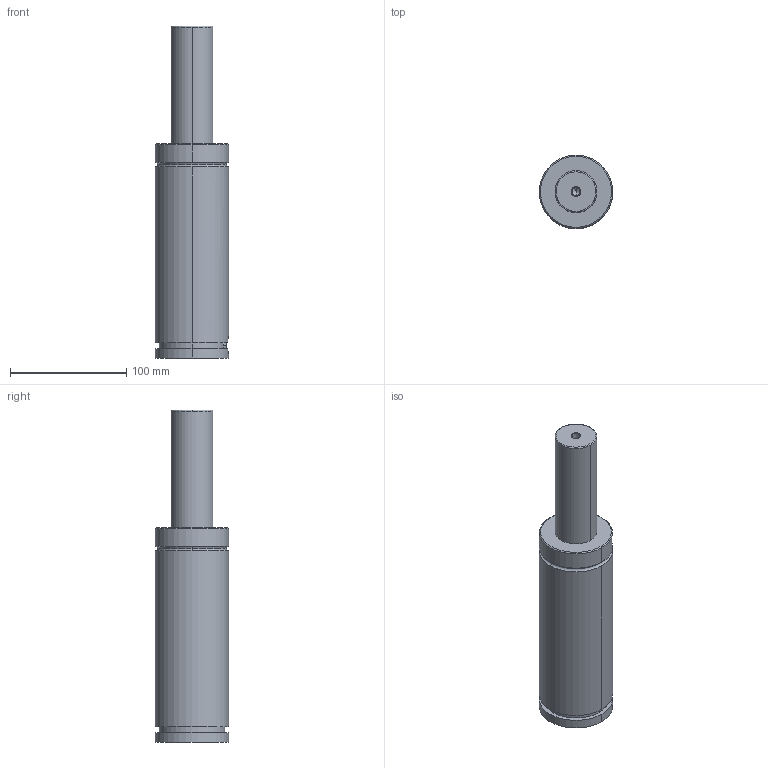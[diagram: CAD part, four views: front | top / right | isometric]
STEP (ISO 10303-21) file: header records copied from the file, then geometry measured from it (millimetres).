
FILE_DESCRIPTION(('FreeCAD Model'),'2;1');
FILE_NAME('Open CASCADE Shape Model','2024-11-12T16:02:51',('Author'),( ''),'Open CASCADE STEP processor 7.6','FreeCAD','Unknown');
FILE_SCHEMA(('AUTOMOTIVE_DESIGN { 1 0 10303 214 1 1 1 1 }'));
Length unit declared in the file: millimetre
Products named in the file (4): Unnamed; 2; 3; Cut
Assembly tree (3 placements, depth 2):
  Unnamed
    2
    3
    Cut
Bounding box: 63 x 63 x 285 mm (x, y, z)
Volume: 566249.3 mm3; surface area: 71663.3 mm2
Topology: 3 solids, 3 shells, 73 faces, 159 edges, 102 vertices
Faces by surface type: cylinder 33, plane 26, cone 8, torus 6
Full cylindrical faces by diameter (mm): 8 x4
Entity records: 2233 total; most frequent: CARTESIAN_POINT 471, DIRECTION 394, ORIENTED_EDGE 314, AXIS2_PLACEMENT_3D 166, EDGE_CURVE 157, VERTEX_POINT 102, CIRCLE 89, FACE_BOUND 85
